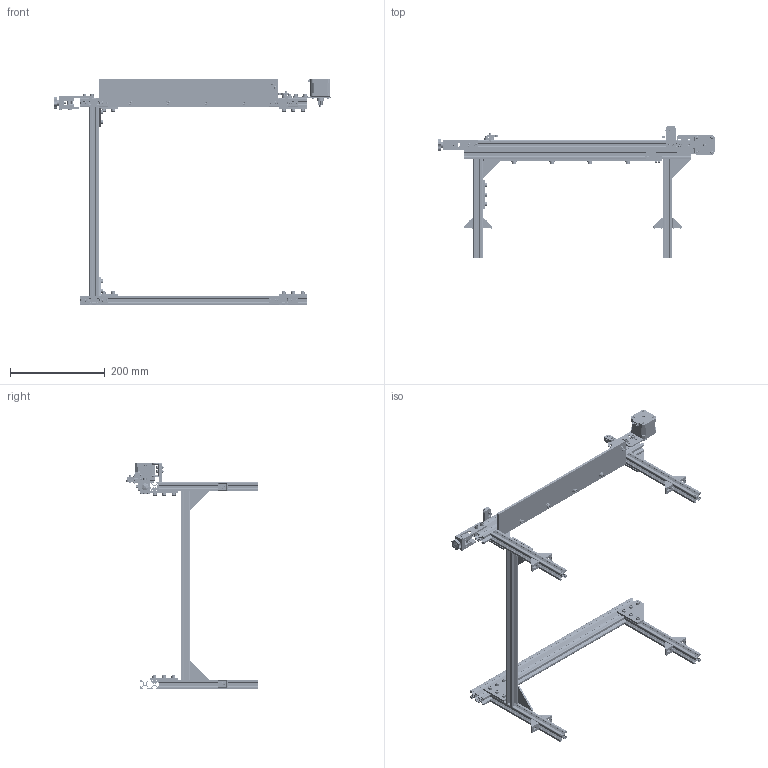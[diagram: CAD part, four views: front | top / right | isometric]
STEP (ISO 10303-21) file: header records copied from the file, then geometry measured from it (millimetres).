
FILE_DESCRIPTION(/* description */ (''),/* implementation_level */ '2;1');
FILE_NAME(/* name */ 'CartesianRobotWorkSpace.stp',/* time_stamp */ '2026-11-15T10:56:18+02:00',/* author */ ('Ahmed'),/* organization */ (''),/* preprocessor_version */ 'ST-DEVELOPER v20.2',/* originating_system */ 'Autodesk Inventor 2027',/* authorisation */ '');
FILE_SCHEMA (('AUTOMOTIVE_DESIGN { 1 0 10303 214 3 1 1 }'));
Products named in the file (34): CartesianRobotWorkSpace; 2020aluminum_extrusion_black; 2040aluminum_extrusion_black; 2020 corner joining plate; 2020 corner joining plate v1_MIR2; Slider T-Nut for 2020 - M5_MIR2; 2020aluminum_extrusion_black_1; ISO 4762 - M5 x 10; Cast_Aluminum_L_Shape_Corner_Bracket_For_Aluminum_Extrusion; LimitSwitchMountPlate; Bloc 02; Drag Chain Support (Y Axis); 2020 Belt Tensioner G_K; M4 T slot nut - 2020 Creality; ISO 4762 - M4 x 12; ANSI B18.22M - 4 N; Body; Nema17; GT2 Pulley Assembly With Grub Screws; ISO 7045 - M2.5 x 12 - 4.8 - Z; ANSI B18.22M - 2.5 N; Slider T-Nut for 2020 - M3; ISO 4762 - M3 x 10; LimitSwitchMountPlate (X Axis); NO/NC Bump Switch; ISO 4762 - M2 x 16; ISO 4032 - M2; ANSI B18.22M - 2 N; ISO 4762 - M3 x 12; ANSI B18.22M - 3 N; ISO 4032 - M3; Slider T-Nut for 2020 - M5; ANSI B18.22M - 5 N; ISO 4762 - M5 x 12
Assembly tree (169 placements, depth 2):
  CartesianRobotWorkSpace
    2020aluminum_extrusion_black
    2040aluminum_extrusion_black  x2
    2020 corner joining plate  x5
    Slider T-Nut for 2020 - M5  x39
    ISO 4762 - M5 x 10  x38
    2020 corner joining plate v1_MIR2
    Slider T-Nut for 2020 - M5_MIR2  x5
    2020aluminum_extrusion_black_1  x4
    Cast_Aluminum_L_Shape_Corner_Bracket_For_Aluminum_Extrusion  x8
    LimitSwitchMountPlate
    NO/NC Bump Switch  x2
    Slider T-Nut for 2020 - M3  x4
    ISO 4762 - M3 x 10  x4
    ANSI B18.22M - 3 N  x6
    ISO 4762 - M2 x 16  x4
    ISO 4032 - M2  x4
    ANSI B18.22M - 2 N  x4
    Bloc 02
    Drag Chain Support (Y Axis)
    2020 Belt Tensioner G_K
    M4 T slot nut - 2020 Creality  x2
    ISO 4762 - M4 x 12  x2
    ANSI B18.22M - 4 N  x2
    ISO 4762 - M5 x 12  x6
    Body
    Nema17
    GT2 Pulley Assembly With Grub Screws
    ANSI B18.22M - 5 N  x6
    ISO 7045 - M2.5 x 12 - 4.8 - Z  x4
    ANSI B18.22M - 2.5 N  x4
    LimitSwitchMountPlate (X Axis)
    ISO 4762 - M3 x 12  x2
    ISO 4032 - M3  x2
Bounding box: 584.55 x 277.79 x 477.33 mm (x, y, z)
Volume: 811845.4 mm3; surface area: 673780.6 mm2
Topology: 195 solids, 195 shells, 5331 faces, 13804 edges, 8955 vertices
Faces by surface type: plane 3023, cylinder 1718, cone 302, torus 193, bspline 53, sphere 42
Full cylindrical faces by diameter (mm): 0.25 x6, 1.567 x4, 1.8 x6, 2 x4, 2.256 x4, 2.459 x2, 2.5 x20, 2.529 x4, 3 x18, 3.5 x12, 3.8 x4, 4 x12, 4.2 x11, 4.234 x52, 4.25 x2, 4.6 x9, 4.62 x2, 4.7 x2, 4.758 x8, 4.958 x12, 5 x86, 5.1 x6, 5.12 x8, 5.4 x1, 5.5 x14, 5.6 x6, 5.66 x2, 5.8 x4, 6 x8, 6.3 x4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
Entity records: 68190 total; most frequent: CARTESIAN_POINT 21204, DIRECTION 9560, ORIENTED_EDGE 9308, EDGE_CURVE 4654, AXIS2_PLACEMENT_3D 3401, VERTEX_POINT 3039, LINE 2758, VECTOR 2758
